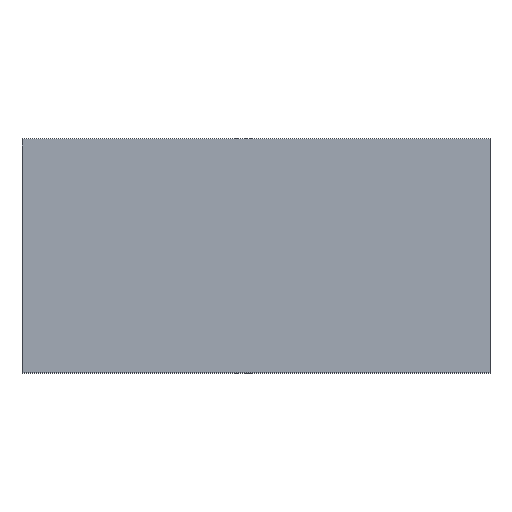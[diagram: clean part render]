
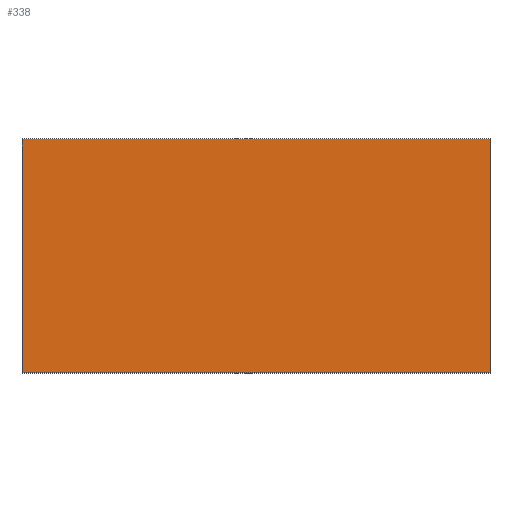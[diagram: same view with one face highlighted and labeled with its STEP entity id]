
A CAD part, top view. The second image highlights one B-rep face of the part: STEP entity #338.
In plain terms, the highlighted planar face has unit normal (0, 0, 1).
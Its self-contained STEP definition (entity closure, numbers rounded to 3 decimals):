
#24 = VERTEX_POINT('',#25);
#25 = CARTESIAN_POINT('',(-150.,-75.,20.));
#32 = PLANE('',#33);
#33 = AXIS2_PLACEMENT_3D('',#34,#35,#36);
#34 = CARTESIAN_POINT('',(-150.,-75.,0.));
#35 = DIRECTION('',(0.,1.,0.));
#36 = DIRECTION('',(1.,0.,0.));
#44 = PLANE('',#45);
#45 = AXIS2_PLACEMENT_3D('',#46,#47,#48);
#46 = CARTESIAN_POINT('',(-150.,75.,0.));
#47 = DIRECTION('',(1.,0.,-0.));
#48 = DIRECTION('',(0.,-1.,0.));
#56 = EDGE_CURVE('',#24,#57,#59,.T.);
#57 = VERTEX_POINT('',#58);
#58 = CARTESIAN_POINT('',(150.,-75.,20.));
#59 = SURFACE_CURVE('',#60,(#64,#71),.PCURVE_S1.);
#60 = LINE('',#61,#62);
#61 = CARTESIAN_POINT('',(-150.,-75.,20.));
#62 = VECTOR('',#63,1.);
#63 = DIRECTION('',(1.,0.,0.));
#64 = PCURVE('',#32,#65);
#65 = DEFINITIONAL_REPRESENTATION('',(#66),#70);
#66 = LINE('',#67,#68);
#67 = CARTESIAN_POINT('',(0.,-20.));
#68 = VECTOR('',#69,1.);
#69 = DIRECTION('',(1.,0.));
#70 = ( GEOMETRIC_REPRESENTATION_CONTEXT(2) 
PARAMETRIC_REPRESENTATION_CONTEXT() REPRESENTATION_CONTEXT('2D SPACE',''
  ) );
#71 = PCURVE('',#72,#77);
#72 = PLANE('',#73);
#73 = AXIS2_PLACEMENT_3D('',#74,#75,#76);
#74 = CARTESIAN_POINT('',(0.,0.,20.));
#75 = DIRECTION('',(0.,0.,1.));
#76 = DIRECTION('',(1.,0.,-0.));
#77 = DEFINITIONAL_REPRESENTATION('',(#78),#82);
#78 = LINE('',#79,#80);
#79 = CARTESIAN_POINT('',(-150.,-75.));
#80 = VECTOR('',#81,1.);
#81 = DIRECTION('',(1.,0.));
#82 = ( GEOMETRIC_REPRESENTATION_CONTEXT(2) 
PARAMETRIC_REPRESENTATION_CONTEXT() REPRESENTATION_CONTEXT('2D SPACE',''
  ) );
#100 = PLANE('',#101);
#101 = AXIS2_PLACEMENT_3D('',#102,#103,#104);
#102 = CARTESIAN_POINT('',(150.,-75.,0.));
#103 = DIRECTION('',(-1.,0.,0.));
#104 = DIRECTION('',(0.,1.,0.));
#142 = EDGE_CURVE('',#57,#143,#145,.T.);
#143 = VERTEX_POINT('',#144);
#144 = CARTESIAN_POINT('',(150.,75.,20.));
#145 = SURFACE_CURVE('',#146,(#150,#157),.PCURVE_S1.);
#146 = LINE('',#147,#148);
#147 = CARTESIAN_POINT('',(150.,-75.,20.));
#148 = VECTOR('',#149,1.);
#149 = DIRECTION('',(0.,1.,0.));
#150 = PCURVE('',#100,#151);
#151 = DEFINITIONAL_REPRESENTATION('',(#152),#156);
#152 = LINE('',#153,#154);
#153 = CARTESIAN_POINT('',(0.,-20.));
#154 = VECTOR('',#155,1.);
#155 = DIRECTION('',(1.,0.));
#156 = ( GEOMETRIC_REPRESENTATION_CONTEXT(2) 
PARAMETRIC_REPRESENTATION_CONTEXT() REPRESENTATION_CONTEXT('2D SPACE',''
  ) );
#157 = PCURVE('',#72,#158);
#158 = DEFINITIONAL_REPRESENTATION('',(#159),#163);
#159 = LINE('',#160,#161);
#160 = CARTESIAN_POINT('',(150.,-75.));
#161 = VECTOR('',#162,1.);
#162 = DIRECTION('',(0.,1.));
#163 = ( GEOMETRIC_REPRESENTATION_CONTEXT(2) 
PARAMETRIC_REPRESENTATION_CONTEXT() REPRESENTATION_CONTEXT('2D SPACE',''
  ) );
#181 = PLANE('',#182);
#182 = AXIS2_PLACEMENT_3D('',#183,#184,#185);
#183 = CARTESIAN_POINT('',(150.,75.,0.));
#184 = DIRECTION('',(0.,-1.,0.));
#185 = DIRECTION('',(-1.,0.,0.));
#218 = EDGE_CURVE('',#143,#219,#221,.T.);
#219 = VERTEX_POINT('',#220);
#220 = CARTESIAN_POINT('',(-150.,75.,20.));
#221 = SURFACE_CURVE('',#222,(#226,#233),.PCURVE_S1.);
#222 = LINE('',#223,#224);
#223 = CARTESIAN_POINT('',(150.,75.,20.));
#224 = VECTOR('',#225,1.);
#225 = DIRECTION('',(-1.,0.,0.));
#226 = PCURVE('',#181,#227);
#227 = DEFINITIONAL_REPRESENTATION('',(#228),#232);
#228 = LINE('',#229,#230);
#229 = CARTESIAN_POINT('',(0.,-20.));
#230 = VECTOR('',#231,1.);
#231 = DIRECTION('',(1.,0.));
#232 = ( GEOMETRIC_REPRESENTATION_CONTEXT(2) 
PARAMETRIC_REPRESENTATION_CONTEXT() REPRESENTATION_CONTEXT('2D SPACE',''
  ) );
#233 = PCURVE('',#72,#234);
#234 = DEFINITIONAL_REPRESENTATION('',(#235),#239);
#235 = LINE('',#236,#237);
#236 = CARTESIAN_POINT('',(150.,75.));
#237 = VECTOR('',#238,1.);
#238 = DIRECTION('',(-1.,0.));
#239 = ( GEOMETRIC_REPRESENTATION_CONTEXT(2) 
PARAMETRIC_REPRESENTATION_CONTEXT() REPRESENTATION_CONTEXT('2D SPACE',''
  ) );
#289 = EDGE_CURVE('',#219,#24,#290,.T.);
#290 = SURFACE_CURVE('',#291,(#295,#302),.PCURVE_S1.);
#291 = LINE('',#292,#293);
#292 = CARTESIAN_POINT('',(-150.,75.,20.));
#293 = VECTOR('',#294,1.);
#294 = DIRECTION('',(0.,-1.,0.));
#295 = PCURVE('',#44,#296);
#296 = DEFINITIONAL_REPRESENTATION('',(#297),#301);
#297 = LINE('',#298,#299);
#298 = CARTESIAN_POINT('',(0.,-20.));
#299 = VECTOR('',#300,1.);
#300 = DIRECTION('',(1.,0.));
#301 = ( GEOMETRIC_REPRESENTATION_CONTEXT(2) 
PARAMETRIC_REPRESENTATION_CONTEXT() REPRESENTATION_CONTEXT('2D SPACE',''
  ) );
#302 = PCURVE('',#72,#303);
#303 = DEFINITIONAL_REPRESENTATION('',(#304),#308);
#304 = LINE('',#305,#306);
#305 = CARTESIAN_POINT('',(-150.,75.));
#306 = VECTOR('',#307,1.);
#307 = DIRECTION('',(0.,-1.));
#308 = ( GEOMETRIC_REPRESENTATION_CONTEXT(2) 
PARAMETRIC_REPRESENTATION_CONTEXT() REPRESENTATION_CONTEXT('2D SPACE',''
  ) );
#338 = ADVANCED_FACE('',(#339),#72,.T.);
#339 = FACE_BOUND('',#340,.T.);
#340 = EDGE_LOOP('',(#341,#342,#343,#344));
#341 = ORIENTED_EDGE('',*,*,#56,.T.);
#342 = ORIENTED_EDGE('',*,*,#142,.T.);
#343 = ORIENTED_EDGE('',*,*,#218,.T.);
#344 = ORIENTED_EDGE('',*,*,#289,.T.);
